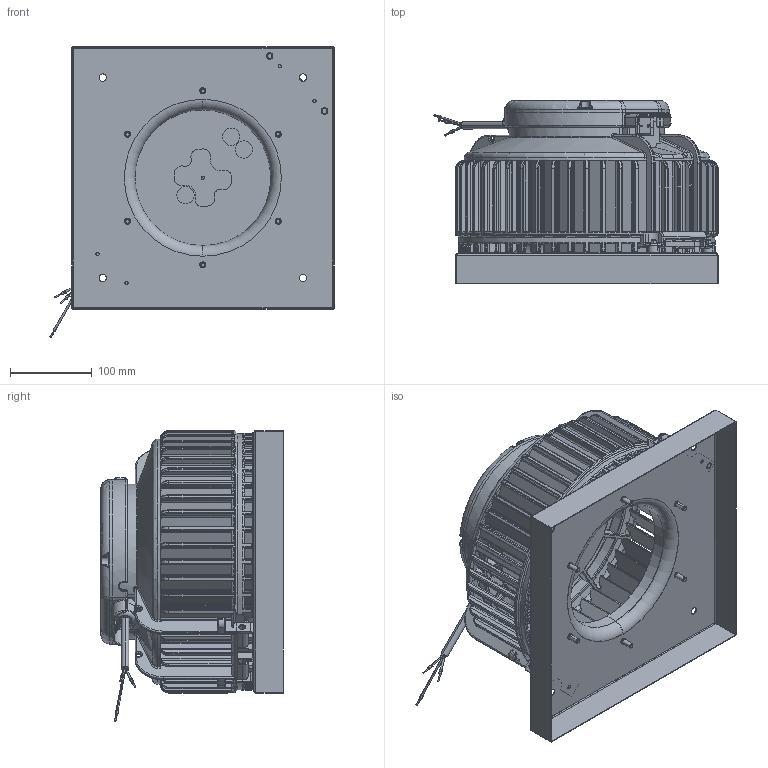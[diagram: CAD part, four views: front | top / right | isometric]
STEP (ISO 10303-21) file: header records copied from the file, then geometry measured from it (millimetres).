
FILE_DESCRIPTION (( 'STEP AP203' ), '1' );
FILE_NAME ('129984-02_DHA250E4P02.STEP', '2017-04-19T08:55:49', ( '' ), ( '' ), 'SwSTEP 2.0', 'SolidWorks 2012', '' );
FILE_SCHEMA (( 'CONFIG_CONTROL_DESIGN' ));
Products named in the file (1): 129984-02_DHA250E4P02
Bounding box: 347.52 x 223.4 x 355.79 mm (x, y, z)
Surface area: 850042.6 mm2 (no closed solid volume)
Topology: 0 solids, 46 shells, 2433 faces, 8327 edges, 5672 vertices
Faces by surface type: cylinder 825, plane 585, torus 507, bspline 412, cone 82, sphere 22
Entity records: 116108 total; most frequent: CARTESIAN_POINT 50191, ORIENTED_EDGE 13708, DIRECTION 12646, EDGE_CURVE 8318, VERTEX_POINT 5671, AXIS2_PLACEMENT_3D 4855, LINE 2936, VECTOR 2936
